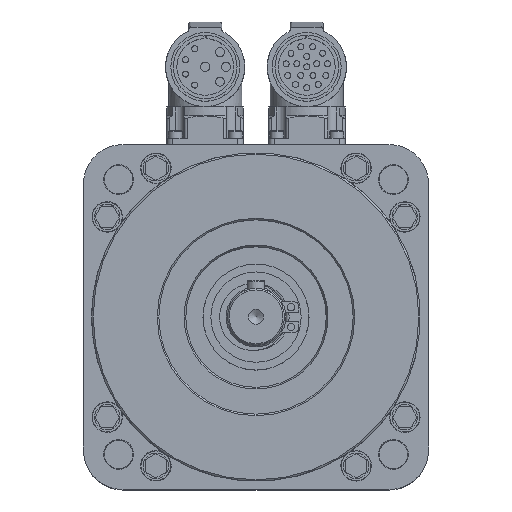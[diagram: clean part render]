
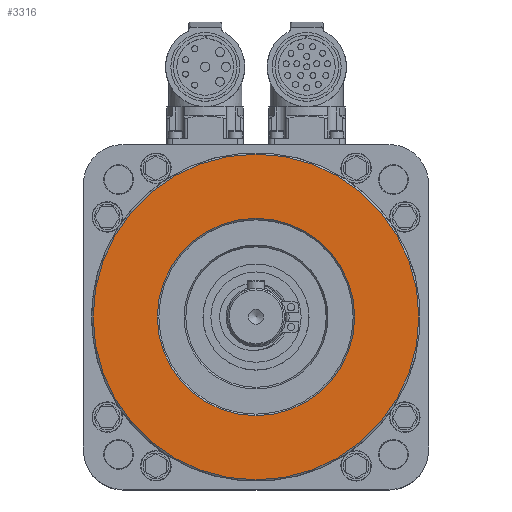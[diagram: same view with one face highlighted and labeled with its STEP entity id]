
A CAD part, top view. The second image highlights one B-rep face of the part: STEP entity #3316.
In plain terms, the highlighted planar face has unit normal (0, 0, 1).
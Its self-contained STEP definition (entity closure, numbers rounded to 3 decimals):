
#3316 = ADVANCED_FACE( '', ( #7072, #7073 ), #7074, .F. );
#7072 = FACE_BOUND( '', #14323, .T. );
#7073 = FACE_OUTER_BOUND( '', #14324, .T. );
#7074 = PLANE( '', #14325 );
#14323 = EDGE_LOOP( '', ( #26414 ) );
#14324 = EDGE_LOOP( '', ( #26415 ) );
#14325 = AXIS2_PLACEMENT_3D( '', #26416, #26417, #26418 );
#26414 = ORIENTED_EDGE( '', *, *, #37694, .T. );
#26415 = ORIENTED_EDGE( '', *, *, #37695, .F. );
#26416 = CARTESIAN_POINT( '', ( 0., 0., 16.5 ) );
#26417 = DIRECTION( '', ( 0., 0., -1. ) );
#26418 = DIRECTION( '', ( -1., 0., 0. ) );
#37694 = EDGE_CURVE( '', #47587, #47587, #47588, .T. );
#37695 = EDGE_CURVE( '', #47589, #47589, #47590, .T. );
#47587 = VERTEX_POINT( '', #65340 );
#47588 = CIRCLE( '', #65341, 33. );
#47589 = VERTEX_POINT( '', #65342 );
#47590 = CIRCLE( '', #65343, 54.5 );
#65340 = CARTESIAN_POINT( '', ( -33., 0., 16.5 ) );
#65341 = AXIS2_PLACEMENT_3D( '', #76266, #76267, #76268 );
#65342 = CARTESIAN_POINT( '', ( -54.5, 0., 16.5 ) );
#65343 = AXIS2_PLACEMENT_3D( '', #76269, #76270, #76271 );
#76266 = CARTESIAN_POINT( '', ( 0., 0., 16.5 ) );
#76267 = DIRECTION( '', ( 0., 0., -1. ) );
#76268 = DIRECTION( '', ( -1., 0., 0. ) );
#76269 = CARTESIAN_POINT( '', ( 0., 0., 16.5 ) );
#76270 = DIRECTION( '', ( 0., 0., -1. ) );
#76271 = DIRECTION( '', ( -1., 0., 0. ) );
